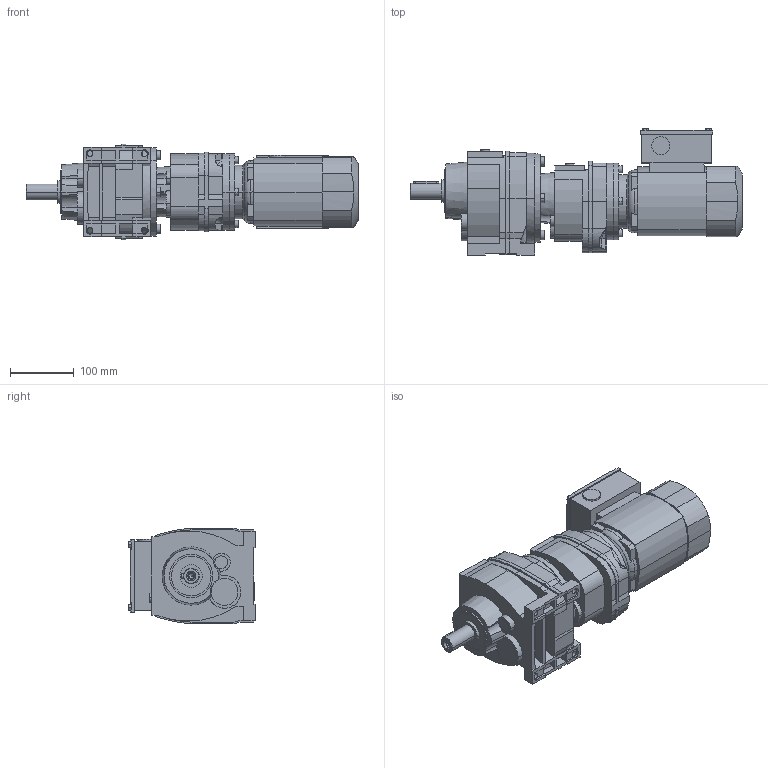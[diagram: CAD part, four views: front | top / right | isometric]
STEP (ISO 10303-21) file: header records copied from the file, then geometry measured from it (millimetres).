
FILE_DESCRIPTION(('STEP AP214'),'1');
FILE_NAME('STEP-File.stp','2018-01-01T00:00:00',(' '),('KEB'),' ','KEB-DRIVE',' ');
FILE_SCHEMA(('AUTOMOTIVE_DESIGN { 1 0 10303 214 1 1 1 1 }'));
Length unit declared in the file: millimetre
Products named in the file (10): g2a; w2_we_25x50; fp1-c2; g1b; cj1; dm63_kkn; kk08; PLUG_M25; ndm63; G22G12A DM63K4§CAD13
Assembly tree (9 placements, depth 2):
  G22G12A DM63K4§CAD13
    g2a
    w2_we_25x50
    fp1-c2
    g1b
    cj1
    dm63_kkn
    kk08
    PLUG_M25
    ndm63
Bounding box: 519 x 197.5 x 150 mm (x, y, z)
Volume: 6499648.7 mm3; surface area: 452875.7 mm2
Topology: 9 solids, 9 shells, 537 faces, 1454 edges, 1012 vertices
Faces by surface type: plane 324, cylinder 144, cone 63, torus 4, extrusion 2
Entity records: 19348 total; most frequent: CARTESIAN_POINT 6265, ORIENTED_EDGE 2898, DIRECTION 2233, EDGE_CURVE 1449, VERTEX_POINT 1012, VECTOR 937, LINE 935, AXIS2_PLACEMENT_3D 648
